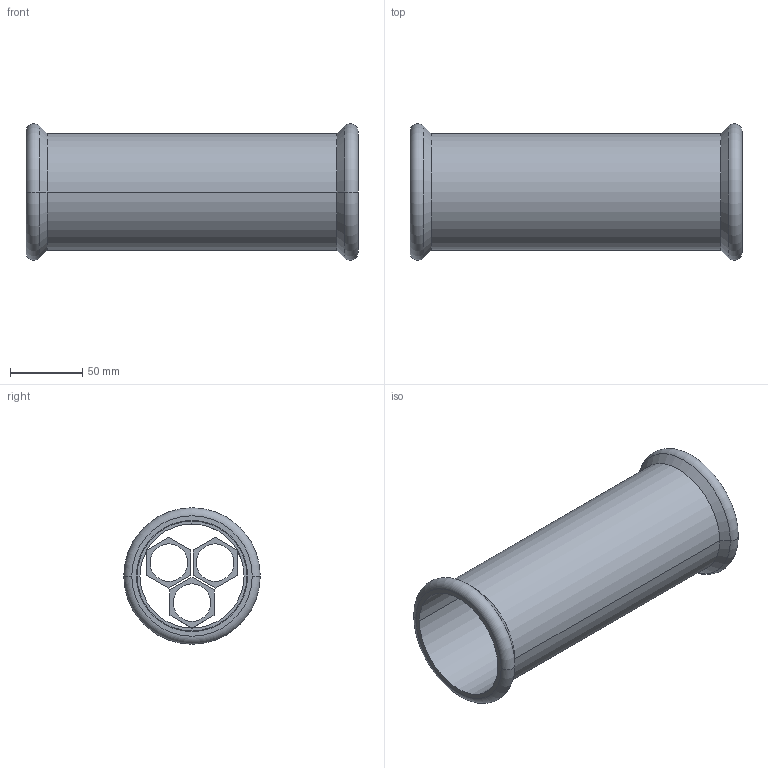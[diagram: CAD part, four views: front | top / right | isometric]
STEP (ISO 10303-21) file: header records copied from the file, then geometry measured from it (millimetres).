
FILE_DESCRIPTION(('OneSpaceDesigner STEP Export'),'2;1');
FILE_NAME('R2703 76x76.stp','2010-06-09T 9:35:41',(''),(''),'OneSpace Designer STEP processor for AP214 (Solid Model)','OneSpace Modeling 15.00A 14-Mar-2007 (C) CoCreate Software GmbH','');
FILE_SCHEMA(('AUTOMOTIVE_DESIGN { 1 0 10303 214 1 1 1 1 }'));
Length unit declared in the file: millimetre
Products named in the file (2): R2703_76x76
Assembly tree (1 placements, depth 2):
  R2703_76x76
    R2703_76x76
Bounding box: 230 x 94.48 x 94.48 mm (x, y, z)
Volume: 223175.4 mm3; surface area: 126746 mm2
Topology: 1 solids, 1 shells, 98 faces, 252 edges, 166 vertices
Faces by surface type: plane 60, cylinder 30, torus 4, cone 4
Entity records: 2667 total; most frequent: ORIENTED_EDGE 504, CARTESIAN_POINT 438, DIRECTION 378, EDGE_CURVE 252, VECTOR 166, LINE 166, VERTEX_POINT 166, EDGE_LOOP 122
